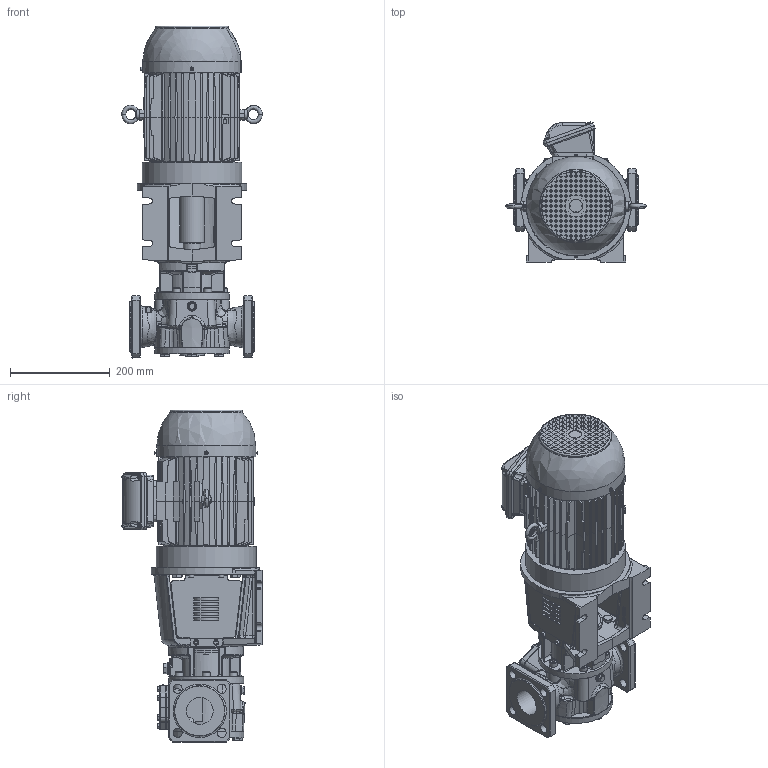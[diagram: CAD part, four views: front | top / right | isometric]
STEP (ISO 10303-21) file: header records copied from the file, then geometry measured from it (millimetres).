
FILE_DESCRIPTION(/* description */ (''),/* implementation_level */ '2;1');
FILE_NAME(/* name */ 'C:\V\JPP\Designs\GEAR PUMPS\PRODUCT ENGINEERING\EUROPE\TG BLOC\TG BLOC_15-50_G2_O_NRV-_100L-STEP.stp',/* time_stamp */ '2021-03-10T15:54:33+01:00',/* author */ ('A77THR'),/* organization */ (''),/* preprocessor_version */ 'ST-DEVELOPER v18.1',/* originating_system */ 'Autodesk Inventor 2020',/* authorisation */ '');
FILE_SCHEMA (('AUTOMOTIVE_DESIGN { 1 0 10303 214 3 1 1 }'));
Length unit declared in the file: millimetre
Products named in the file (1): TG BLOC_15-50_G2_O_NRV-_100L
Bounding box: 281.99 x 281.02 x 666.1 mm (x, y, z)
Volume: 14040886.6 mm3; surface area: 999550.6 mm2
Topology: 1 solids, 1 shells, 3948 faces, 10159 edges, 6441 vertices
Faces by surface type: plane 2173, bspline 747, cylinder 544, cone 310, torus 124, sphere 50
Full cylindrical faces by diameter (mm): 3.15 x1, 4.5 x4, 4.917 x4, 5 x3, 5.459 x8, 6 x10, 6.647 x1, 7 x8, 8 x1, 8.376 x5, 8.5 x2, 8.7 x8, 9.188 x4, 10 x12, 10.5 x1, 11.445 x2, 11.5 x4, 12 x5, 15.011 x3, 15.4 x14, 16 x6, 17.9 x3, 18 x11, 19 x3, 21.939 x1, 25.9 x1, 26 x2, 27.6 x1, 27.9 x1, 28 x2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
Entity records: 163888 total; most frequent: CARTESIAN_POINT 69868, ORIENTED_EDGE 20194, DIRECTION 16590, EDGE_CURVE 10097, VERTEX_POINT 6441, AXIS2_PLACEMENT_3D 5708, LINE 5174, VECTOR 5174
